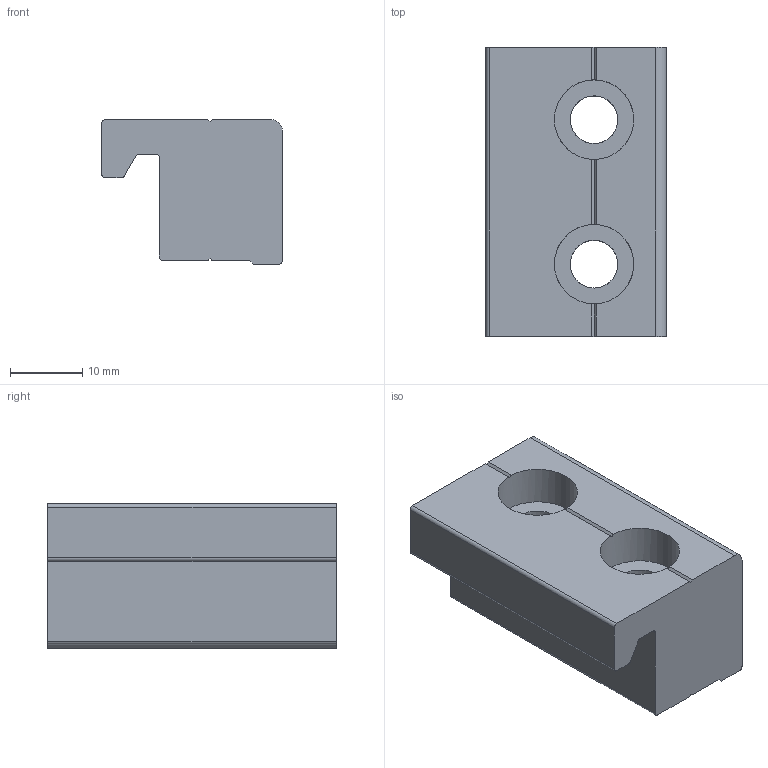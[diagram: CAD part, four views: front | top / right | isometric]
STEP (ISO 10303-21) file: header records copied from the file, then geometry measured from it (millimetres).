
FILE_DESCRIPTION(('STEP AP214'),'1');
FILE_NAME('SL4H-L40.stp','2017-07-26T07:28:21',(' '),(' '),'Spatial InterOp 3D',' ',' ');
FILE_SCHEMA(('automotive_design'));
Length unit declared in the file: millimetre
Products named in the file (1): SL4H-L40
Bounding box: 25 x 40 x 20 mm (x, y, z)
Volume: 13350.2 mm3; surface area: 5319 mm2
Topology: 1 solids, 1 shells, 40 faces, 116 edges, 76 vertices
Faces by surface type: plane 28, cylinder 12
Full cylindrical faces by diameter (mm): 6.6 x2, 11 x2
Entity records: 1656 total; most frequent: DIRECTION 238, CARTESIAN_POINT 229, ORIENTED_EDGE 224, EDGE_CURVE 112, AXIS2_PLACEMENT_3D 85, VERTEX_POINT 76, LINE 68, VECTOR 68
